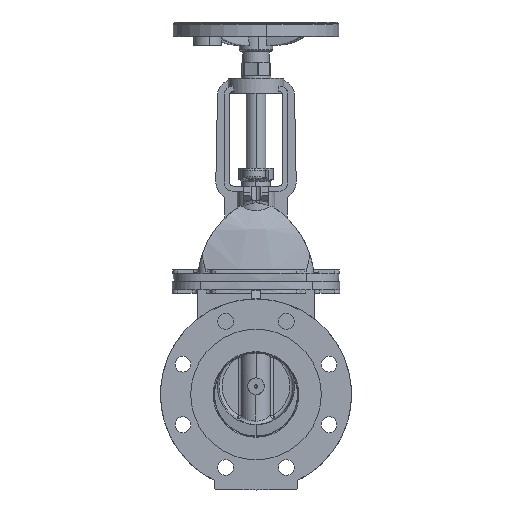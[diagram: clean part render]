
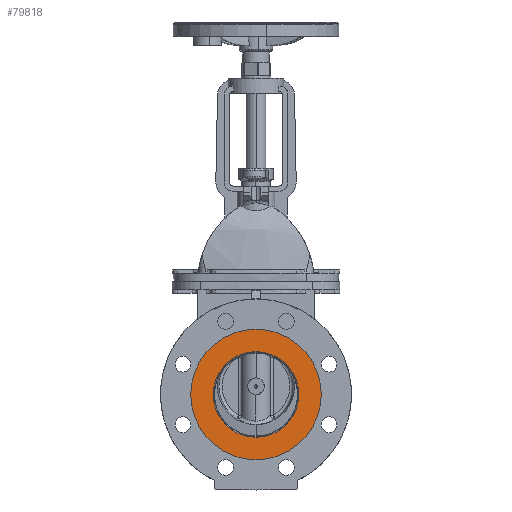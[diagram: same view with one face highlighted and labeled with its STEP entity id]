
A CAD part, left-side view. The second image highlights one B-rep face of the part: STEP entity #79818.
In plain terms, the highlighted planar face has unit normal (-1, 0, 0).
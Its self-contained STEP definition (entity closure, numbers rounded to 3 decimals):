
#67515 = CYLINDRICAL_SURFACE('',#67516,51.5);
#67516 = AXIS2_PLACEMENT_3D('',#67517,#67518,#67519);
#67517 = CARTESIAN_POINT('',(671.661,-42.29,
    156.686));
#67518 = DIRECTION('',(-1.,0.,0.));
#67519 = DIRECTION('',(0.,0.,1.));
#68508 = VERTEX_POINT('',#68509);
#68509 = CARTESIAN_POINT('',(656.661,-42.29,
    208.186));
#68523 = CYLINDRICAL_SURFACE('',#68524,51.5);
#68524 = AXIS2_PLACEMENT_3D('',#68525,#68526,#68527);
#68525 = CARTESIAN_POINT('',(671.661,-42.29,
    156.686));
#68526 = DIRECTION('',(-1.,0.,0.));
#68527 = DIRECTION('',(0.,0.,1.));
#68535 = EDGE_CURVE('',#68536,#68508,#68538,.T.);
#68536 = VERTEX_POINT('',#68537);
#68537 = CARTESIAN_POINT('',(656.661,-42.29,
    105.186));
#68538 = SURFACE_CURVE('',#68539,(#68544,#68551),.PCURVE_S1.);
#68539 = CIRCLE('',#68540,51.5);
#68540 = AXIS2_PLACEMENT_3D('',#68541,#68542,#68543);
#68541 = CARTESIAN_POINT('',(656.661,-42.29,
    156.686));
#68542 = DIRECTION('',(-1.,0.,0.));
#68543 = DIRECTION('',(0.,0.,1.));
#68544 = PCURVE('',#67515,#68545);
#68545 = DEFINITIONAL_REPRESENTATION('',(#68546),#68550);
#68546 = LINE('',#68547,#68548);
#68547 = CARTESIAN_POINT('',(0.,15.));
#68548 = VECTOR('',#68549,1.);
#68549 = DIRECTION('',(1.,0.));
#68550 = ( GEOMETRIC_REPRESENTATION_CONTEXT(2) 
PARAMETRIC_REPRESENTATION_CONTEXT() REPRESENTATION_CONTEXT('2D SPACE',''
  ) );
#68551 = PCURVE('',#68552,#68557);
#68552 = PLANE('',#68553);
#68553 = AXIS2_PLACEMENT_3D('',#68554,#68555,#68556);
#68554 = CARTESIAN_POINT('',(656.661,-42.29,
    156.686));
#68555 = DIRECTION('',(1.,0.,0.));
#68556 = DIRECTION('',(0.,0.,-1.));
#68557 = DEFINITIONAL_REPRESENTATION('',(#68558),#68566);
#68558 = ( BOUNDED_CURVE() B_SPLINE_CURVE(2,(#68559,#68560,#68561,#68562
    ,#68563,#68564,#68565),.UNSPECIFIED.,.T.,.F.) 
B_SPLINE_CURVE_WITH_KNOTS((1,2,2,2,2,1),(-2.094,0.,
    2.094,4.189,6.283,8.378),
.UNSPECIFIED.) CURVE() GEOMETRIC_REPRESENTATION_ITEM() 
RATIONAL_B_SPLINE_CURVE((1.,0.5,1.,0.5,1.,0.5,1.)) REPRESENTATION_ITEM(
  '') );
#68559 = CARTESIAN_POINT('',(-51.5,0.));
#68560 = CARTESIAN_POINT('',(-51.5,89.201));
#68561 = CARTESIAN_POINT('',(25.75,44.6));
#68562 = CARTESIAN_POINT('',(103.,0.));
#68563 = CARTESIAN_POINT('',(25.75,-44.6));
#68564 = CARTESIAN_POINT('',(-51.5,-89.201));
#68565 = CARTESIAN_POINT('',(-51.5,0.));
#68566 = ( GEOMETRIC_REPRESENTATION_CONTEXT(2) 
PARAMETRIC_REPRESENTATION_CONTEXT() REPRESENTATION_CONTEXT('2D SPACE',''
  ) );
#68605 = CYLINDRICAL_SURFACE('',#68606,78.6);
#68606 = AXIS2_PLACEMENT_3D('',#68607,#68608,#68609);
#68607 = CARTESIAN_POINT('',(658.661,-42.29,
    156.686));
#68608 = DIRECTION('',(-1.,0.,0.));
#68609 = DIRECTION('',(0.,0.,1.));
#68630 = VERTEX_POINT('',#68631);
#68631 = CARTESIAN_POINT('',(656.661,-42.29,
    78.086));
#68645 = CYLINDRICAL_SURFACE('',#68646,78.6);
#68646 = AXIS2_PLACEMENT_3D('',#68647,#68648,#68649);
#68647 = CARTESIAN_POINT('',(658.661,-42.29,
    156.686));
#68648 = DIRECTION('',(-1.,0.,0.));
#68649 = DIRECTION('',(0.,0.,1.));
#68657 = EDGE_CURVE('',#68658,#68630,#68660,.T.);
#68658 = VERTEX_POINT('',#68659);
#68659 = CARTESIAN_POINT('',(656.661,-42.29,
    235.286));
#68660 = SURFACE_CURVE('',#68661,(#68666,#68673),.PCURVE_S1.);
#68661 = CIRCLE('',#68662,78.6);
#68662 = AXIS2_PLACEMENT_3D('',#68663,#68664,#68665);
#68663 = CARTESIAN_POINT('',(656.661,-42.29,
    156.686));
#68664 = DIRECTION('',(-1.,0.,0.));
#68665 = DIRECTION('',(0.,0.,1.));
#68666 = PCURVE('',#68605,#68667);
#68667 = DEFINITIONAL_REPRESENTATION('',(#68668),#68672);
#68668 = LINE('',#68669,#68670);
#68669 = CARTESIAN_POINT('',(0.,2.));
#68670 = VECTOR('',#68671,1.);
#68671 = DIRECTION('',(1.,0.));
#68672 = ( GEOMETRIC_REPRESENTATION_CONTEXT(2) 
PARAMETRIC_REPRESENTATION_CONTEXT() REPRESENTATION_CONTEXT('2D SPACE',''
  ) );
#68673 = PCURVE('',#68552,#68674);
#68674 = DEFINITIONAL_REPRESENTATION('',(#68675),#68683);
#68675 = ( BOUNDED_CURVE() B_SPLINE_CURVE(2,(#68676,#68677,#68678,#68679
    ,#68680,#68681,#68682),.UNSPECIFIED.,.T.,.F.) 
B_SPLINE_CURVE_WITH_KNOTS((1,2,2,2,2,1),(-2.094,0.,
    2.094,4.189,6.283,8.378),
.UNSPECIFIED.) CURVE() GEOMETRIC_REPRESENTATION_ITEM() 
RATIONAL_B_SPLINE_CURVE((1.,0.5,1.,0.5,1.,0.5,1.)) REPRESENTATION_ITEM(
  '') );
#68676 = CARTESIAN_POINT('',(-78.6,0.));
#68677 = CARTESIAN_POINT('',(-78.6,136.139));
#68678 = CARTESIAN_POINT('',(39.3,68.07));
#68679 = CARTESIAN_POINT('',(157.2,0.));
#68680 = CARTESIAN_POINT('',(39.3,-68.07));
#68681 = CARTESIAN_POINT('',(-78.6,-136.139));
#68682 = CARTESIAN_POINT('',(-78.6,0.));
#68683 = ( GEOMETRIC_REPRESENTATION_CONTEXT(2) 
PARAMETRIC_REPRESENTATION_CONTEXT() REPRESENTATION_CONTEXT('2D SPACE',''
  ) );
#79689 = EDGE_CURVE('',#68630,#68658,#79690,.T.);
#79690 = SURFACE_CURVE('',#79691,(#79696,#79703),.PCURVE_S1.);
#79691 = CIRCLE('',#79692,78.6);
#79692 = AXIS2_PLACEMENT_3D('',#79693,#79694,#79695);
#79693 = CARTESIAN_POINT('',(656.661,-42.29,
    156.686));
#79694 = DIRECTION('',(-1.,0.,0.));
#79695 = DIRECTION('',(0.,0.,1.));
#79696 = PCURVE('',#68645,#79697);
#79697 = DEFINITIONAL_REPRESENTATION('',(#79698),#79702);
#79698 = LINE('',#79699,#79700);
#79699 = CARTESIAN_POINT('',(0.,2.));
#79700 = VECTOR('',#79701,1.);
#79701 = DIRECTION('',(1.,0.));
#79702 = ( GEOMETRIC_REPRESENTATION_CONTEXT(2) 
PARAMETRIC_REPRESENTATION_CONTEXT() REPRESENTATION_CONTEXT('2D SPACE',''
  ) );
#79703 = PCURVE('',#68552,#79704);
#79704 = DEFINITIONAL_REPRESENTATION('',(#79705),#79713);
#79705 = ( BOUNDED_CURVE() B_SPLINE_CURVE(2,(#79706,#79707,#79708,#79709
    ,#79710,#79711,#79712),.UNSPECIFIED.,.T.,.F.) 
B_SPLINE_CURVE_WITH_KNOTS((1,2,2,2,2,1),(-2.094,0.,
    2.094,4.189,6.283,8.378),
.UNSPECIFIED.) CURVE() GEOMETRIC_REPRESENTATION_ITEM() 
RATIONAL_B_SPLINE_CURVE((1.,0.5,1.,0.5,1.,0.5,1.)) REPRESENTATION_ITEM(
  '') );
#79706 = CARTESIAN_POINT('',(-78.6,0.));
#79707 = CARTESIAN_POINT('',(-78.6,136.139));
#79708 = CARTESIAN_POINT('',(39.3,68.07));
#79709 = CARTESIAN_POINT('',(157.2,0.));
#79710 = CARTESIAN_POINT('',(39.3,-68.07));
#79711 = CARTESIAN_POINT('',(-78.6,-136.139));
#79712 = CARTESIAN_POINT('',(-78.6,0.));
#79713 = ( GEOMETRIC_REPRESENTATION_CONTEXT(2) 
PARAMETRIC_REPRESENTATION_CONTEXT() REPRESENTATION_CONTEXT('2D SPACE',''
  ) );
#79793 = EDGE_CURVE('',#68508,#68536,#79794,.T.);
#79794 = SURFACE_CURVE('',#79795,(#79800,#79807),.PCURVE_S1.);
#79795 = CIRCLE('',#79796,51.5);
#79796 = AXIS2_PLACEMENT_3D('',#79797,#79798,#79799);
#79797 = CARTESIAN_POINT('',(656.661,-42.29,
    156.686));
#79798 = DIRECTION('',(-1.,0.,0.));
#79799 = DIRECTION('',(0.,0.,1.));
#79800 = PCURVE('',#68523,#79801);
#79801 = DEFINITIONAL_REPRESENTATION('',(#79802),#79806);
#79802 = LINE('',#79803,#79804);
#79803 = CARTESIAN_POINT('',(0.,15.));
#79804 = VECTOR('',#79805,1.);
#79805 = DIRECTION('',(1.,0.));
#79806 = ( GEOMETRIC_REPRESENTATION_CONTEXT(2) 
PARAMETRIC_REPRESENTATION_CONTEXT() REPRESENTATION_CONTEXT('2D SPACE',''
  ) );
#79807 = PCURVE('',#68552,#79808);
#79808 = DEFINITIONAL_REPRESENTATION('',(#79809),#79817);
#79809 = ( BOUNDED_CURVE() B_SPLINE_CURVE(2,(#79810,#79811,#79812,#79813
    ,#79814,#79815,#79816),.UNSPECIFIED.,.T.,.F.) 
B_SPLINE_CURVE_WITH_KNOTS((1,2,2,2,2,1),(-2.094,0.,
    2.094,4.189,6.283,8.378),
.UNSPECIFIED.) CURVE() GEOMETRIC_REPRESENTATION_ITEM() 
RATIONAL_B_SPLINE_CURVE((1.,0.5,1.,0.5,1.,0.5,1.)) REPRESENTATION_ITEM(
  '') );
#79810 = CARTESIAN_POINT('',(-51.5,0.));
#79811 = CARTESIAN_POINT('',(-51.5,89.201));
#79812 = CARTESIAN_POINT('',(25.75,44.6));
#79813 = CARTESIAN_POINT('',(103.,0.));
#79814 = CARTESIAN_POINT('',(25.75,-44.6));
#79815 = CARTESIAN_POINT('',(-51.5,-89.201));
#79816 = CARTESIAN_POINT('',(-51.5,0.));
#79817 = ( GEOMETRIC_REPRESENTATION_CONTEXT(2) 
PARAMETRIC_REPRESENTATION_CONTEXT() REPRESENTATION_CONTEXT('2D SPACE',''
  ) );
#79818 = ADVANCED_FACE('',(#79819,#79823),#68552,.F.);
#79819 = FACE_BOUND('',#79820,.T.);
#79820 = EDGE_LOOP('',(#79821,#79822));
#79821 = ORIENTED_EDGE('',*,*,#79793,.F.);
#79822 = ORIENTED_EDGE('',*,*,#68535,.F.);
#79823 = FACE_BOUND('',#79824,.T.);
#79824 = EDGE_LOOP('',(#79825,#79826));
#79825 = ORIENTED_EDGE('',*,*,#68657,.T.);
#79826 = ORIENTED_EDGE('',*,*,#79689,.T.);
